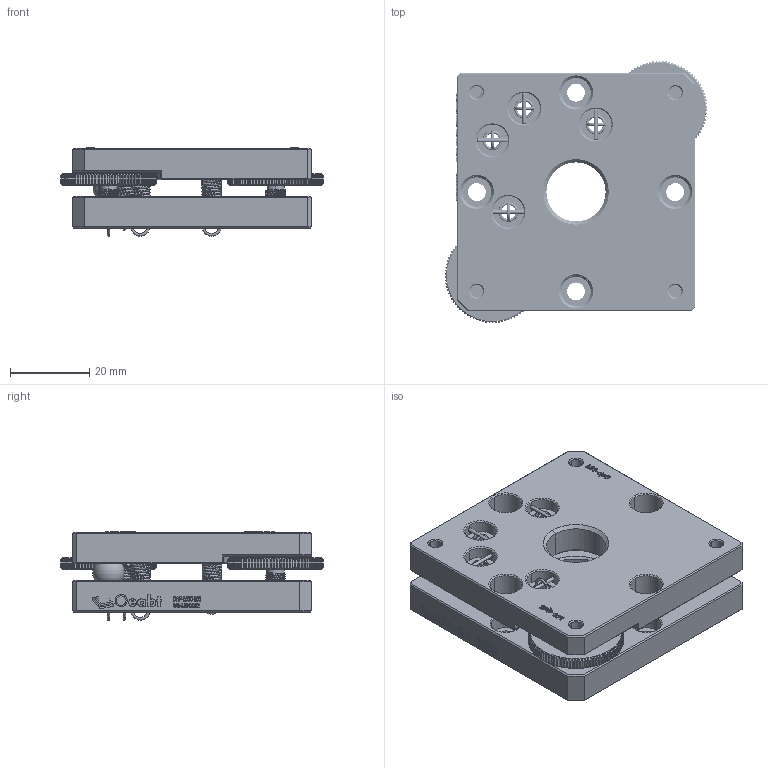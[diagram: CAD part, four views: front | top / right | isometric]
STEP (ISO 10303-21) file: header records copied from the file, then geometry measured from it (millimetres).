
FILE_DESCRIPTION((''),'2;1');
FILE_NAME('BK60A-22_ASM','2020-11-03T',('Administrator'),(''),'CREO PARAMETRIC BY PTC INC, 2015290','CREO PARAMETRIC BY PTC INC, 2015290','');
FILE_SCHEMA(('CONFIG_CONTROL_DESIGN'));
Products named in the file (7): BK60A-22_A1; BK60A-M6_A2; BALL_8; BK60A-M6_A3; SPRING_5X10; AXLE_1X7_7; BK60A-22_ASM
Assembly tree (17 placements, depth 2):
  BK60A-22_ASM
    BK60A-22_A1
    BK60A-M6_A2
    BALL_8
    BK60A-M6_A3  x2
    SPRING_5X10  x4
    AXLE_1X7_7  x8
Bounding box: 66.07 x 66.05 x 22.25 mm (x, y, z)
Volume: 49847.2 mm3; surface area: 24651 mm2
Topology: 17 solids, 17 shells, 2004 faces, 5608 edges, 3654 vertices
Faces by surface type: plane 1174, cylinder 340, extrusion 197, cone 147, bspline 140, sphere 6
Entity records: 67292 total; most frequent: CARTESIAN_POINT 26064, ORIENTED_EDGE 8982, DIRECTION 7670, EDGE_CURVE 4491, VECTOR 3652, LINE 3545, VERTEX_POINT 2942, AXIS2_PLACEMENT_3D 2009
